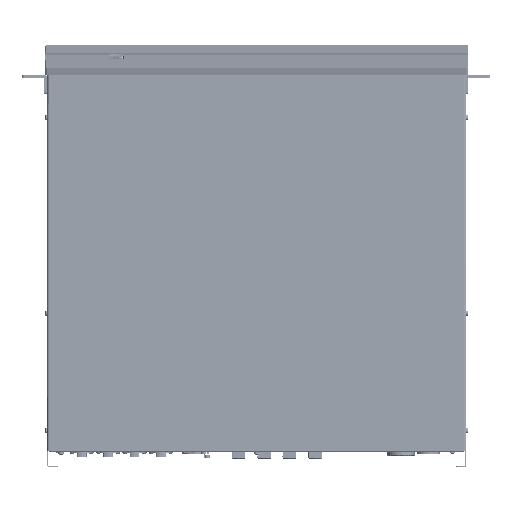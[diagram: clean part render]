
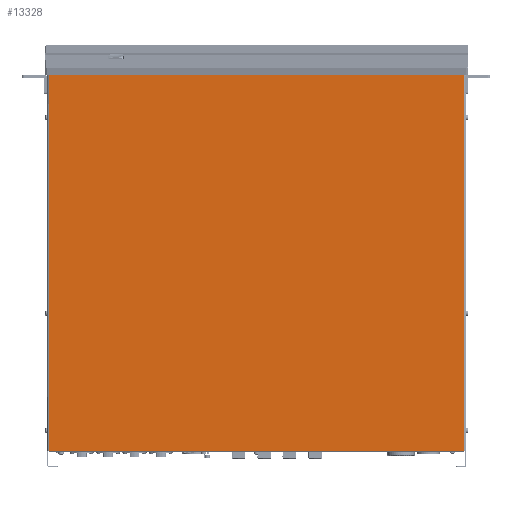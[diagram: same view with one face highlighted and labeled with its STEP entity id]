
A CAD part, top view. The second image highlights one B-rep face of the part: STEP entity #13328.
In plain terms, the highlighted planar face has unit normal (0, 0, 1).
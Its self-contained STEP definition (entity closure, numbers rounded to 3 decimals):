
#13328=ADVANCED_FACE('',(#26795),#245473,.T.);
#26795=FACE_OUTER_BOUND('',#42671,.T.);
#42671=EDGE_LOOP('',(#108243,#108244,#108245,#108246));
#108243=ORIENTED_EDGE('',*,*,#155596,.T.);
#108244=ORIENTED_EDGE('',*,*,#155597,.T.);
#108245=ORIENTED_EDGE('',*,*,#155598,.T.);
#108246=ORIENTED_EDGE('',*,*,#155599,.T.);
#155596=EDGE_CURVE('',#240610,#240611,#185417,.T.);
#155597=EDGE_CURVE('',#240611,#240612,#185418,.T.);
#155598=EDGE_CURVE('',#240612,#240613,#185419,.T.);
#155599=EDGE_CURVE('',#240613,#240610,#185420,.T.);
#185417=B_SPLINE_CURVE_WITH_KNOTS('',1,(#486902,#486903),.UNSPECIFIED.,
 .F.,.F.,(2,2),(0.,424.4),.UNSPECIFIED.);
#185418=B_SPLINE_CURVE_WITH_KNOTS('',1,(#486904,#486905),.UNSPECIFIED.,
 .F.,.F.,(2,2),(0.,384.5),.UNSPECIFIED.);
#185419=B_SPLINE_CURVE_WITH_KNOTS('',1,(#486906,#486907),.UNSPECIFIED.,
 .F.,.F.,(2,2),(0.,424.4),.UNSPECIFIED.);
#185420=B_SPLINE_CURVE_WITH_KNOTS('',1,(#486908,#486909),.UNSPECIFIED.,
 .F.,.F.,(2,2),(0.,384.5),.UNSPECIFIED.);
#240610=VERTEX_POINT('',#479006);
#240611=VERTEX_POINT('',#479007);
#240612=VERTEX_POINT('',#479008);
#240613=VERTEX_POINT('',#479009);
#245473=PLANE('',#272265);
#272265=AXIS2_PLACEMENT_3D('',#467320,#305954,$);
#305954=DIRECTION('',(0.,0.,1.));
#467320=CARTESIAN_POINT('',(-230.7,-254.64,0.));
#479006=CARTESIAN_POINT('',(192.25,-212.2,0.));
#479007=CARTESIAN_POINT('',(192.25,212.2,0.));
#479008=CARTESIAN_POINT('',(-192.25,212.2,0.));
#479009=CARTESIAN_POINT('',(-192.25,-212.2,0.));
#486902=CARTESIAN_POINT('',(192.25,-212.2,0.));
#486903=CARTESIAN_POINT('',(192.25,212.2,0.));
#486904=CARTESIAN_POINT('',(192.25,212.2,0.));
#486905=CARTESIAN_POINT('',(-192.25,212.2,0.));
#486906=CARTESIAN_POINT('',(-192.25,212.2,0.));
#486907=CARTESIAN_POINT('',(-192.25,-212.2,0.));
#486908=CARTESIAN_POINT('',(-192.25,-212.2,0.));
#486909=CARTESIAN_POINT('',(192.25,-212.2,0.));
